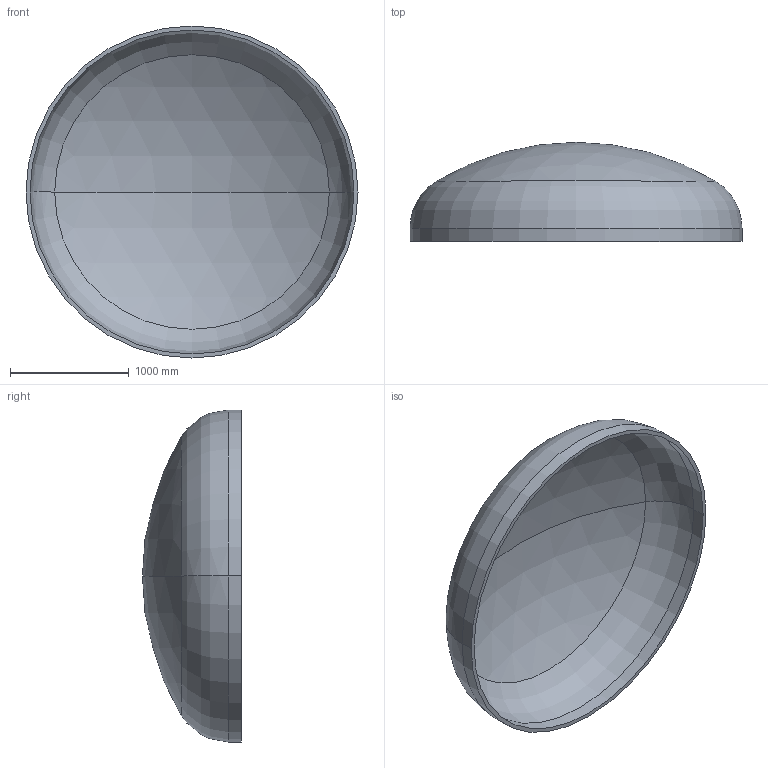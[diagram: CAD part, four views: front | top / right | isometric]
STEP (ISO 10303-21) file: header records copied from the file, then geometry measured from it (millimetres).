
FILE_DESCRIPTION (( 'STEP AP203' ), '1' );
FILE_NAME ('DIN 28013 Korbbogenform_-_Boden DIN 28013 - 2800 x 110 - I - s=34.step', '2016-07-01T16:54:39', ( '' ), ( '' ), 'SwSTEP 2.0', 'SolidWorks 2013', '' );
FILE_SCHEMA (( 'CONFIG_CONTROL_DESIGN' ));
Length unit declared in the file: millimetre
Products named in the file (1): DIN 28013 Korbbogenform_-_Boden DIN 28013 - 2800 x 110 - I - s=34
Bounding box: 2800 x 834.81 x 2800 mm (x, y, z)
Volume: 317679962 mm3; surface area: 18984919 mm2
Topology: 1 solids, 1 shells, 13 faces, 24 edges, 14 vertices
Faces by surface type: torus 4, cylinder 4, sphere 4, plane 1
Entity records: 407 total; most frequent: DIRECTION 72, CARTESIAN_POINT 52, ORIENTED_EDGE 48, AXIS2_PLACEMENT_3D 34, EDGE_CURVE 24, CIRCLE 20, EDGE_LOOP 14, VERTEX_POINT 14
